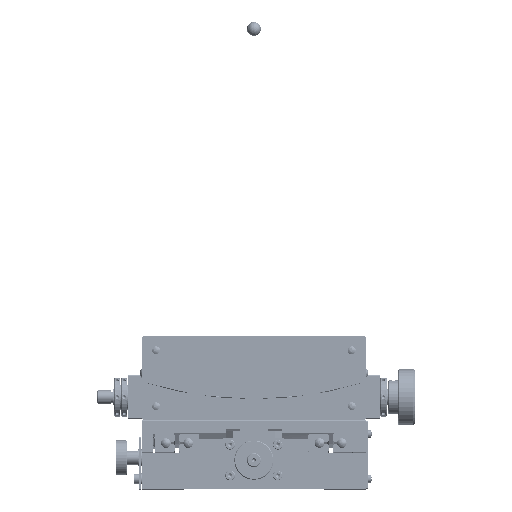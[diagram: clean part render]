
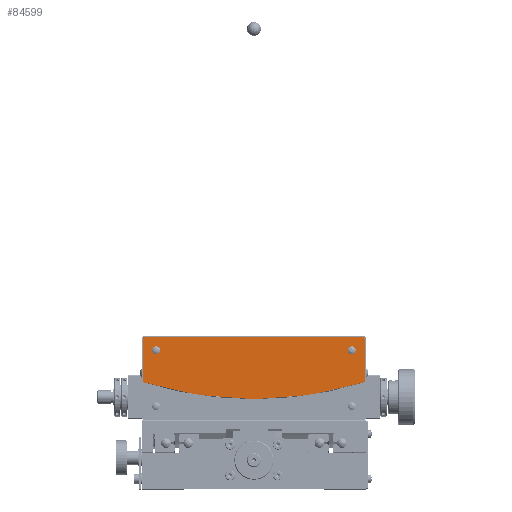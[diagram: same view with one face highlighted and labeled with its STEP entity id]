
A CAD part, left-side view. The second image highlights one B-rep face of the part: STEP entity #84599.
In plain terms, the highlighted planar face has unit normal (-1, 0, 0) as drawn and (0, -1, 0) by its records, which use the part's own axes.
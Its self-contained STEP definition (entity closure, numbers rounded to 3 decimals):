
#7890 = CARTESIAN_POINT ( 'NONE',  ( 67.2, -82., -10. ) ) ;
#7893 = DIRECTION ( 'NONE',  ( 0., 0., -1. ) ) ;
#7895 = DIRECTION ( 'NONE',  ( 0., -1., 0. ) ) ;
#7897 = CARTESIAN_POINT ( 'NONE',  ( 70., -82., -10. ) ) ;
#7898 = AXIS2_PLACEMENT_3D ( 'NONE', #7897, #7895, #7893 ) ;
#7900 = CIRCLE ( 'NONE', #7898, 2.8 ) ;
#7925 = CARTESIAN_POINT ( 'NONE',  ( 72.8, -82., -10. ) ) ;
#9331 = CARTESIAN_POINT ( 'NONE',  ( -72.8, -82., -10. ) ) ;
#9333 = CARTESIAN_POINT ( 'NONE',  ( -67.2, -82., -10. ) ) ;
#9335 = DIRECTION ( 'NONE',  ( 0., 0., -1. ) ) ;
#9336 = DIRECTION ( 'NONE',  ( 0., -1., 0. ) ) ;
#9337 = CARTESIAN_POINT ( 'NONE',  ( -70., -82., -10. ) ) ;
#9339 = AXIS2_PLACEMENT_3D ( 'NONE', #9337, #9336, #9335 ) ;
#9340 = CIRCLE ( 'NONE', #9339, 2.8 ) ;
#10047 = VERTEX_POINT ( 'NONE', #119180 ) ;
#27173 = VERTEX_POINT ( 'NONE', #7925 ) ;
#27188 = EDGE_CURVE ( 'NONE', #27173, #27189, #7900, .T. ) ;
#27189 = VERTEX_POINT ( 'NONE', #7890 ) ;
#27917 = EDGE_CURVE ( 'NONE', #27920, #27924, #9340, .T. ) ;
#27920 = VERTEX_POINT ( 'NONE', #9333 ) ;
#27924 = VERTEX_POINT ( 'NONE', #9331 ) ;
#83067 = EDGE_CURVE ( 'NONE', #27189, #27173, #93793, .T. ) ;
#84599 = ADVANCED_FACE ( 'NONE', ( #98569, #98568, #98567 ), #98566, .T. ) ;
#84600 = EDGE_LOOP ( 'NONE', ( #84601, #84603 ) ) ;
#84601 = ORIENTED_EDGE ( 'NONE', *, *, #27188, .F. ) ;
#84603 = ORIENTED_EDGE ( 'NONE', *, *, #83067, .F. ) ;
#84605 = EDGE_LOOP ( 'NONE', ( #84609, #84610 ) ) ;
#84609 = ORIENTED_EDGE ( 'NONE', *, *, #27917, .F. ) ;
#84610 = ORIENTED_EDGE ( 'NONE', *, *, #84637, .F. ) ;
#84637 = EDGE_CURVE ( 'NONE', #27924, #27920, #98582, .T. ) ;
#84641 = EDGE_LOOP ( 'NONE', ( #84644, #84651, #84652, #84658, #84664, #84698 ) ) ;
#84644 = ORIENTED_EDGE ( 'NONE', *, *, #84646, .T. ) ;
#84646 = EDGE_CURVE ( 'NONE', #84647, #111832, #98628, .T. ) ;
#84647 = VERTEX_POINT ( 'NONE', #98624 ) ;
#84651 = ORIENTED_EDGE ( 'NONE', *, *, #111578, .T. ) ;
#84652 = ORIENTED_EDGE ( 'NONE', *, *, #84654, .T. ) ;
#84654 = EDGE_CURVE ( 'NONE', #10047, #84656, #98615, .T. ) ;
#84656 = VERTEX_POINT ( 'NONE', #98668 ) ;
#84658 = ORIENTED_EDGE ( 'NONE', *, *, #84660, .T. ) ;
#84660 = EDGE_CURVE ( 'NONE', #84656, #84662, #98666, .T. ) ;
#84662 = VERTEX_POINT ( 'NONE', #98657 ) ;
#84664 = ORIENTED_EDGE ( 'NONE', *, *, #84666, .T. ) ;
#84666 = EDGE_CURVE ( 'NONE', #84662, #84668, #98655, .T. ) ;
#84668 = VERTEX_POINT ( 'NONE', #98647 ) ;
#84698 = ORIENTED_EDGE ( 'NONE', *, *, #84700, .T. ) ;
#84700 = EDGE_CURVE ( 'NONE', #84668, #84647, #98716, .T. ) ;
#93787 = DIRECTION ( 'NONE',  ( 0., 0., -1. ) ) ;
#93788 = DIRECTION ( 'NONE',  ( 0., -1., 0. ) ) ;
#93790 = CARTESIAN_POINT ( 'NONE',  ( 70., -82., -10. ) ) ;
#93791 = AXIS2_PLACEMENT_3D ( 'NONE', #93790, #93788, #93787 ) ;
#93793 = CIRCLE ( 'NONE', #93791, 2.8 ) ;
#98561 = DIRECTION ( 'NONE',  ( 0., 0., -1. ) ) ;
#98562 = DIRECTION ( 'NONE',  ( 0., -1., 0. ) ) ;
#98563 = AXIS2_PLACEMENT_3D ( 'NONE', #98565, #98562, #98561 ) ;
#98565 = CARTESIAN_POINT ( 'NONE',  ( 0., -82., 220. ) ) ;
#98566 = PLANE ( 'NONE',  #98563 ) ;
#98567 = FACE_OUTER_BOUND ( 'NONE', #84641, .T. ) ;
#98568 = FACE_BOUND ( 'NONE', #84605, .T. ) ;
#98569 = FACE_BOUND ( 'NONE', #84600, .T. ) ;
#98580 = CARTESIAN_POINT ( 'NONE',  ( -70., -82., -10. ) ) ;
#98581 = AXIS2_PLACEMENT_3D ( 'NONE', #98580, #98642, #98641 ) ;
#98582 = CIRCLE ( 'NONE', #98581, 2.8 ) ;
#98612 = DIRECTION ( 'NONE',  ( 0., 0., 1. ) ) ;
#98613 = VECTOR ( 'NONE', #98612, 1000. ) ;
#98614 = CARTESIAN_POINT ( 'NONE',  ( 79.5, -82., -32.794 ) ) ;
#98615 = LINE ( 'NONE', #98614, #98613 ) ;
#98624 = CARTESIAN_POINT ( 'NONE',  ( -79.5, -82., -1.3 ) ) ;
#98625 = DIRECTION ( 'NONE',  ( 0., 0., -1. ) ) ;
#98626 = VECTOR ( 'NONE', #98625, 1000. ) ;
#98627 = CARTESIAN_POINT ( 'NONE',  ( -79.5, -82., -1.3 ) ) ;
#98628 = LINE ( 'NONE', #98627, #98626 ) ;
#98641 = DIRECTION ( 'NONE',  ( 0., 0., -1. ) ) ;
#98642 = DIRECTION ( 'NONE',  ( 0., -1., 0. ) ) ;
#98647 = CARTESIAN_POINT ( 'NONE',  ( -78.7, -82., -0.5 ) ) ;
#98652 = DIRECTION ( 'NONE',  ( -1., 0., 0. ) ) ;
#98653 = VECTOR ( 'NONE', #98652, 1000. ) ;
#98654 = CARTESIAN_POINT ( 'NONE',  ( 78.7, -82., -0.5 ) ) ;
#98655 = LINE ( 'NONE', #98654, #98653 ) ;
#98657 = CARTESIAN_POINT ( 'NONE',  ( 78.7, -82., -0.5 ) ) ;
#98663 = DIRECTION ( 'NONE',  ( -0.707, 0., 0.707 ) ) ;
#98664 = VECTOR ( 'NONE', #98663, 1000. ) ;
#98665 = CARTESIAN_POINT ( 'NONE',  ( 79.5, -82., -1.3 ) ) ;
#98666 = LINE ( 'NONE', #98665, #98664 ) ;
#98668 = CARTESIAN_POINT ( 'NONE',  ( 79.5, -82., -1.3 ) ) ;
#98713 = DIRECTION ( 'NONE',  ( -0.707, 0., -0.707 ) ) ;
#98714 = VECTOR ( 'NONE', #98713, 1000. ) ;
#98715 = CARTESIAN_POINT ( 'NONE',  ( -78.7, -82., -0.5 ) ) ;
#98716 = LINE ( 'NONE', #98715, #98714 ) ;
#111578 = EDGE_CURVE ( 'NONE', #111832, #10047, #140146, .T. ) ;
#111832 = VERTEX_POINT ( 'NONE', #140354 ) ;
#119180 = CARTESIAN_POINT ( 'NONE',  ( 79.5, -82., -32.794 ) ) ;
#140143 = DIRECTION ( 'NONE',  ( 0., 0., -1. ) ) ;
#140144 = DIRECTION ( 'NONE',  ( 0., -1., 0. ) ) ;
#140145 = AXIS2_PLACEMENT_3D ( 'NONE', #140150, #140144, #140143 ) ;
#140146 = CIRCLE ( 'NONE', #140145, 265. ) ;
#140150 = CARTESIAN_POINT ( 'NONE',  ( 0., -82., 220. ) ) ;
#140354 = CARTESIAN_POINT ( 'NONE',  ( -79.5, -82., -32.794 ) ) ;
